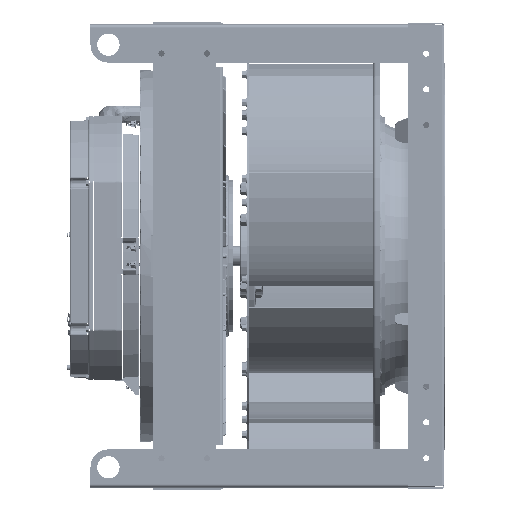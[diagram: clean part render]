
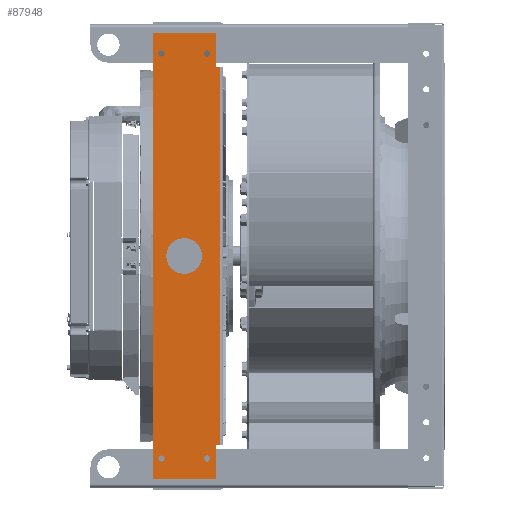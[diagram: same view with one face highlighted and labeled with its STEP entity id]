
A CAD part, front view. The second image highlights one B-rep face of the part: STEP entity #87948.
In plain terms, the highlighted planar face has unit normal (0, -1, 0) as drawn and (0, 0, 1) by its records, which use the part's own axes.
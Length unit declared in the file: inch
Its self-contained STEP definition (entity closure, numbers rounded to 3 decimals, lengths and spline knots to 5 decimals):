
#1166 = DIRECTION ( 'NONE',  ( 0., 0., 1. ) ) ;
#1406 = AXIS2_PLACEMENT_3D ( 'NONE', #90673, #113225, #48417 ) ;
#3893 = ORIENTED_EDGE ( 'NONE', *, *, #87397, .F. ) ;
#6683 = VECTOR ( 'NONE', #80078, 39.37008 ) ;
#10359 = DIRECTION ( 'NONE',  ( -1., 0., 0. ) ) ;
#11044 = DIRECTION ( 'NONE',  ( 0., 1., 0. ) ) ;
#17382 = EDGE_CURVE ( 'NONE', #149015, #149015, #72926, .T. ) ;
#18060 = ORIENTED_EDGE ( 'NONE', *, *, #175098, .T. ) ;
#19484 = EDGE_CURVE ( 'NONE', #276581, #150611, #111875, .T. ) ;
#25444 = FACE_OUTER_BOUND ( 'NONE', #261106, .T. ) ;
#25969 = CARTESIAN_POINT ( 'NONE',  ( 10.555, 1.77, 0.135 ) ) ;
#29381 = EDGE_CURVE ( 'NONE', #276363, #150611, #120314, .T. ) ;
#31327 = DIRECTION ( 'NONE',  ( -1., 0., 0. ) ) ;
#33757 = CARTESIAN_POINT ( 'NONE',  ( 0., 0., 0.135 ) ) ;
#34311 = CARTESIAN_POINT ( 'NONE',  ( -12.465, 1.77, 0.135 ) ) ;
#35469 = LINE ( 'NONE', #138523, #114286 ) ;
#36750 = EDGE_CURVE ( 'NONE', #140949, #125875, #112420, .T. ) ;
#40391 = CARTESIAN_POINT ( 'NONE',  ( -12.465, 1.77, 0.135 ) ) ;
#48417 = DIRECTION ( 'NONE',  ( 1., 0., 0. ) ) ;
#56161 = CARTESIAN_POINT ( 'NONE',  ( 12.465, -1.77, 0.135 ) ) ;
#57004 = CIRCLE ( 'NONE', #151601, 0.172 ) ;
#60180 = DIRECTION ( 'NONE',  ( -1., 0., 0. ) ) ;
#60345 = LINE ( 'NONE', #269137, #242898 ) ;
#60666 = VECTOR ( 'NONE', #60180, 39.37008 ) ;
#69176 = FACE_BOUND ( 'NONE', #263462, .T. ) ;
#69188 = AXIS2_PLACEMENT_3D ( 'NONE', #33757, #204466, #272079 ) ;
#71161 = EDGE_LOOP ( 'NONE', ( #245180 ) ) ;
#72926 = CIRCLE ( 'NONE', #95460, 0.172 ) ;
#80078 = DIRECTION ( 'NONE',  ( 0., -1., 0. ) ) ;
#80919 = EDGE_CURVE ( 'NONE', #247999, #244773, #253582, .T. ) ;
#85259 = EDGE_LOOP ( 'NONE', ( #3893 ) ) ;
#85628 = CARTESIAN_POINT ( 'NONE',  ( 11.133, 1.27, 0.135 ) ) ;
#87397 = EDGE_CURVE ( 'NONE', #267728, #267728, #213736, .T. ) ;
#87819 = EDGE_CURVE ( 'NONE', #276581, #247999, #35469, .T. ) ;
#87948 = ADVANCED_FACE ( 'NONE', ( #260984, #25444, #90305, #176349, #69176, #241252 ), #140922, .F. ) ;
#88353 = VECTOR ( 'NONE', #174520, 39.37008 ) ;
#90286 = ORIENTED_EDGE ( 'NONE', *, *, #36750, .T. ) ;
#90305 = FACE_BOUND ( 'NONE', #85259, .T. ) ;
#90673 = CARTESIAN_POINT ( 'NONE',  ( 0., 0., 0.135 ) ) ;
#92443 = CARTESIAN_POINT ( 'NONE',  ( 11.305, 1.27, 0.135 ) ) ;
#94095 = DIRECTION ( 'NONE',  ( 0., 0., 1. ) ) ;
#95216 = DIRECTION ( 'NONE',  ( 0., 0., 1. ) ) ;
#95460 = AXIS2_PLACEMENT_3D ( 'NONE', #140556, #94095, #206847 ) ;
#98692 = ORIENTED_EDGE ( 'NONE', *, *, #125347, .T. ) ;
#100532 = AXIS2_PLACEMENT_3D ( 'NONE', #136140, #1166, #214197 ) ;
#104370 = EDGE_CURVE ( 'NONE', #274623, #274623, #122991, .T. ) ;
#105422 = CARTESIAN_POINT ( 'NONE',  ( -10.555, 1.9775, 0.135 ) ) ;
#106556 = ORIENTED_EDGE ( 'NONE', *, *, #29381, .T. ) ;
#108196 = CARTESIAN_POINT ( 'NONE',  ( 10.555, 1.9775, 0.135 ) ) ;
#111875 = LINE ( 'NONE', #199302, #238342 ) ;
#112420 = LINE ( 'NONE', #239387, #88353 ) ;
#112990 = CARTESIAN_POINT ( 'NONE',  ( -10.555, 1.9775, 0.135 ) ) ;
#113225 = DIRECTION ( 'NONE',  ( 0., 0., 1. ) ) ;
#114286 = VECTOR ( 'NONE', #31327, 39.37008 ) ;
#120314 = LINE ( 'NONE', #34311, #199502 ) ;
#122346 = DIRECTION ( 'NONE',  ( 1., 0., 0. ) ) ;
#122991 = CIRCLE ( 'NONE', #1406, 1. ) ;
#125347 = EDGE_CURVE ( 'NONE', #244773, #140949, #171477, .T. ) ;
#125875 = VERTEX_POINT ( 'NONE', #225810 ) ;
#127863 = CARTESIAN_POINT ( 'NONE',  ( -11.133, 1.27, 0.135 ) ) ;
#133290 = EDGE_CURVE ( 'NONE', #229188, #229188, #57004, .T. ) ;
#136140 = CARTESIAN_POINT ( 'NONE',  ( -11.305, -1.27, 0.135 ) ) ;
#138181 = ORIENTED_EDGE ( 'NONE', *, *, #207610, .F. ) ;
#138190 = ORIENTED_EDGE ( 'NONE', *, *, #202570, .T. ) ;
#138523 = CARTESIAN_POINT ( 'NONE',  ( 10.555, 1.9775, 0.135 ) ) ;
#138842 = ORIENTED_EDGE ( 'NONE', *, *, #80919, .T. ) ;
#140556 = CARTESIAN_POINT ( 'NONE',  ( -11.305, 1.27, 0.135 ) ) ;
#140922 = PLANE ( 'NONE',  #69188 ) ;
#140949 = VERTEX_POINT ( 'NONE', #209692 ) ;
#143570 = DIRECTION ( 'NONE',  ( 1., 0., 0. ) ) ;
#149015 = VERTEX_POINT ( 'NONE', #127863 ) ;
#150611 = VERTEX_POINT ( 'NONE', #25969 ) ;
#151601 = AXIS2_PLACEMENT_3D ( 'NONE', #278890, #257759, #143570 ) ;
#152646 = ORIENTED_EDGE ( 'NONE', *, *, #133290, .F. ) ;
#161874 = CARTESIAN_POINT ( 'NONE',  ( -11.477, -1.27, 0.135 ) ) ;
#162331 = ORIENTED_EDGE ( 'NONE', *, *, #17382, .F. ) ;
#167111 = VECTOR ( 'NONE', #11044, 39.37008 ) ;
#171477 = LINE ( 'NONE', #40391, #60666 ) ;
#174520 = DIRECTION ( 'NONE',  ( 0., -1., 0. ) ) ;
#175098 = EDGE_CURVE ( 'NONE', #213699, #276363, #249412, .T. ) ;
#176349 = FACE_BOUND ( 'NONE', #244361, .T. ) ;
#178150 = DIRECTION ( 'NONE',  ( 0., -1., 0. ) ) ;
#184328 = ORIENTED_EDGE ( 'NONE', *, *, #87819, .T. ) ;
#187767 = CARTESIAN_POINT ( 'NONE',  ( 12.465, 1.77, 0.135 ) ) ;
#198569 = AXIS2_PLACEMENT_3D ( 'NONE', #92443, #95216, #267306 ) ;
#199302 = CARTESIAN_POINT ( 'NONE',  ( 10.555, 1.9775, 0.135 ) ) ;
#199500 = ORIENTED_EDGE ( 'NONE', *, *, #19484, .F. ) ;
#199502 = VECTOR ( 'NONE', #10359, 39.37008 ) ;
#202570 = EDGE_CURVE ( 'NONE', #125875, #213699, #60345, .T. ) ;
#204466 = DIRECTION ( 'NONE',  ( 0., 0., -1. ) ) ;
#206847 = DIRECTION ( 'NONE',  ( 1., 0., 0. ) ) ;
#207610 = EDGE_CURVE ( 'NONE', #240728, #240728, #239230, .T. ) ;
#209692 = CARTESIAN_POINT ( 'NONE',  ( -12.465, 1.77, 0.135 ) ) ;
#213699 = VERTEX_POINT ( 'NONE', #240704 ) ;
#213736 = CIRCLE ( 'NONE', #100532, 0.172 ) ;
#214197 = DIRECTION ( 'NONE',  ( -1., 0., 0. ) ) ;
#225810 = CARTESIAN_POINT ( 'NONE',  ( -12.465, -1.77, 0.135 ) ) ;
#228372 = EDGE_LOOP ( 'NONE', ( #138181 ) ) ;
#229188 = VERTEX_POINT ( 'NONE', #275701 ) ;
#233737 = CARTESIAN_POINT ( 'NONE',  ( 1., 0., 0.135 ) ) ;
#238342 = VECTOR ( 'NONE', #178150, 39.37008 ) ;
#239230 = CIRCLE ( 'NONE', #198569, 0.172 ) ;
#239387 = CARTESIAN_POINT ( 'NONE',  ( -12.465, -1.77, 0.135 ) ) ;
#240704 = CARTESIAN_POINT ( 'NONE',  ( 12.465, -1.77, 0.135 ) ) ;
#240728 = VERTEX_POINT ( 'NONE', #85628 ) ;
#241252 = FACE_BOUND ( 'NONE', #228372, .T. ) ;
#242898 = VECTOR ( 'NONE', #122346, 39.37008 ) ;
#244361 = EDGE_LOOP ( 'NONE', ( #162331 ) ) ;
#244773 = VERTEX_POINT ( 'NONE', #250806 ) ;
#245180 = ORIENTED_EDGE ( 'NONE', *, *, #104370, .F. ) ;
#247999 = VERTEX_POINT ( 'NONE', #112990 ) ;
#249412 = LINE ( 'NONE', #56161, #167111 ) ;
#250806 = CARTESIAN_POINT ( 'NONE',  ( -10.555, 1.77, 0.135 ) ) ;
#253582 = LINE ( 'NONE', #105422, #6683 ) ;
#257759 = DIRECTION ( 'NONE',  ( 0., 0., 1. ) ) ;
#260984 = FACE_BOUND ( 'NONE', #71161, .T. ) ;
#261106 = EDGE_LOOP ( 'NONE', ( #90286, #138190, #18060, #106556, #199500, #184328, #138842, #98692 ) ) ;
#263462 = EDGE_LOOP ( 'NONE', ( #152646 ) ) ;
#267306 = DIRECTION ( 'NONE',  ( -1., 0., 0. ) ) ;
#267728 = VERTEX_POINT ( 'NONE', #161874 ) ;
#269137 = CARTESIAN_POINT ( 'NONE',  ( -12.465, -1.77, 0.135 ) ) ;
#272079 = DIRECTION ( 'NONE',  ( -1., 0., 0. ) ) ;
#274623 = VERTEX_POINT ( 'NONE', #233737 ) ;
#275701 = CARTESIAN_POINT ( 'NONE',  ( 11.477, -1.27, 0.135 ) ) ;
#276363 = VERTEX_POINT ( 'NONE', #187767 ) ;
#276581 = VERTEX_POINT ( 'NONE', #108196 ) ;
#278890 = CARTESIAN_POINT ( 'NONE',  ( 11.305, -1.27, 0.135 ) ) ;
